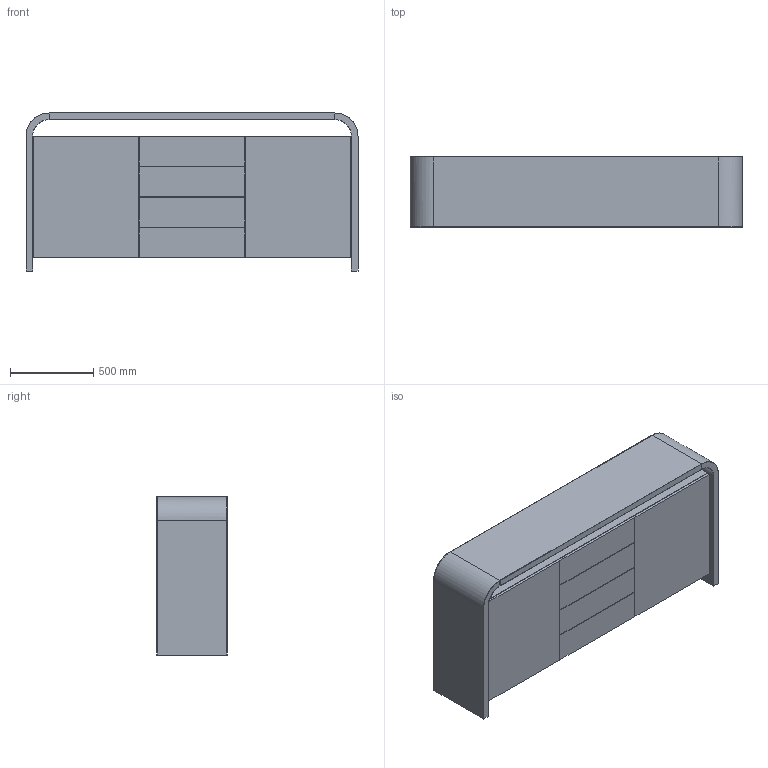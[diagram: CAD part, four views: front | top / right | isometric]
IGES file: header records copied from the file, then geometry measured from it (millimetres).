
Start section: Comment
Global section: file name: S14-3.igs; native system:  By UGS Corp.; preprocessor: XPlus GENERIC/IGES 3.0; author: Author; organization: Title; date: 20161104.123146; units: inch
Bounding box: 1996 x 425 x 950 mm (x, y, z)
Surface area: 12692488.9 mm2 (no closed solid volume)
Topology: 0 solids, 0 shells, 112 faces, 480 edges, 480 vertices
Faces by surface type: bspline 112
